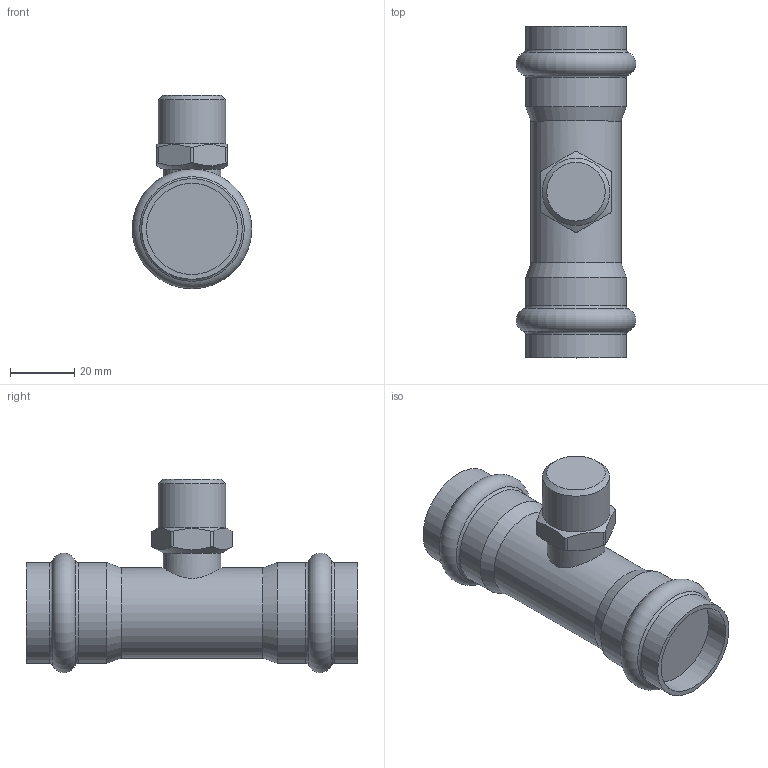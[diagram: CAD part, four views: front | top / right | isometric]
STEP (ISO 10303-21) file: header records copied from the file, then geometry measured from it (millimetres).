
FILE_DESCRIPTION(('STEP AP203'), '1');
FILE_NAME('VTi.933.I.280428', '', ('UNSPECIFIED'), ('UNSPECIFIED'), 'C3D Converter', 'C3D Toolkit', '');
FILE_SCHEMA(('CONFIG_CONTROL_DESIGN'));
Length unit declared in the file: millimetre
Bounding box: 37.1 x 103 x 60.05 mm (x, y, z)
Volume: 75596.3 mm3; surface area: 15280.8 mm2
Topology: 1 solids, 1 shells, 37 faces, 84 edges, 51 vertices
Faces by surface type: cylinder 15, plane 11, torus 6, cone 5
Full cylindrical faces by diameter (mm): 18 x1, 20.955 x1, 28 x1, 28.3 x2, 31.26 x4
Entity records: 2015 total; most frequent: CARTESIAN_POINT 1270, DIRECTION 132, ORIENTED_EDGE 126, EDGE_CURVE 63, AXIS2_PLACEMENT_3D 60, EDGE_LOOP 60, VERTEX_POINT 51, ADVANCED_FACE 37
